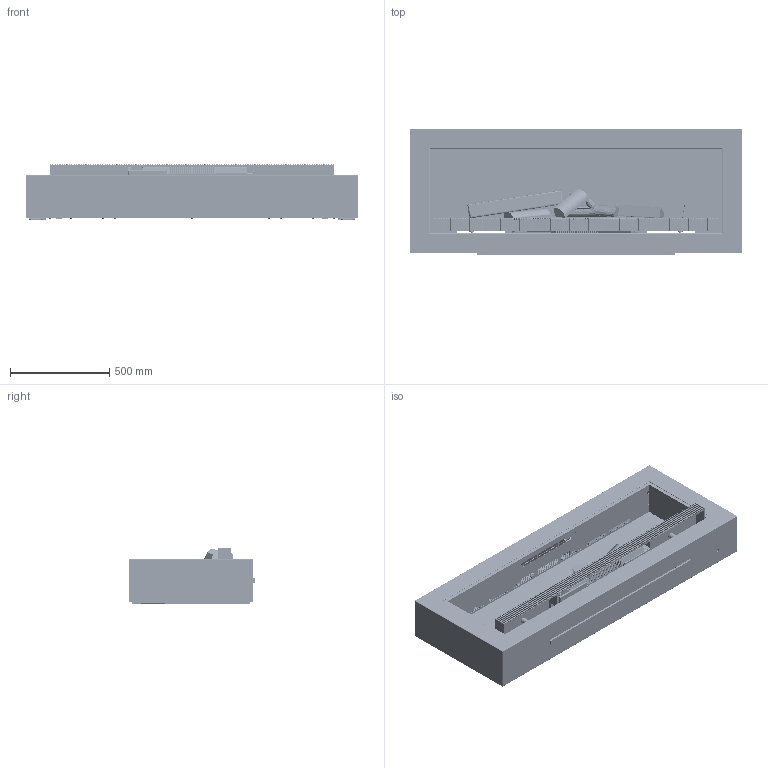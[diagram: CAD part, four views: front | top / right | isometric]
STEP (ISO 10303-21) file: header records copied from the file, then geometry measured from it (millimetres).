
FILE_DESCRIPTION (( 'STEP AP203' ), '1' );
FILE_NAME ('E Series E65 Design Frame with LED.STEP', '2024-03-12T12:49:04', ( '' ), ( '' ), 'SwSTEP 2.0', 'SolidWorks 2020', '' );
FILE_SCHEMA (( 'CONFIG_CONTROL_DESIGN' ));
Length unit declared in the file: millimetre
Products named in the file (93): KF06364; KF04020; KF06249; KF05924; KF05923; KF00592_Phoenix 3273266; KF06083_Built in version; KF06717_Left - Bend ; KF04060; KF06375; KF05861; KF05845; KF06239; KF06605; KF06124; KF06679; KF05910; KF05962_Hand set bends; KF06611; KF05961; KF05879; KF05901; KF06148_Built in ; KF04003; KF06684_Built in; KF05976; KF01931_Phoenix 3273274; KF06606; KF06368; KF06545; KF06609; KF06681; KF05846; KF06369; KF06370; KF05849; KF06460; KF05964; KF05977; E Series E65 Design Frame with LED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
Assembly tree (233 placements, depth 6):
  E Series E65 Design Frame with LED
    KF05881_Inschijner
      KF05976
      KF06112
        KF05883
        KF06109
      KF06113
        KF05884
        KF06109
      KF06679  x2
    KF05923
    KF05915  x2
    KF04164  x6
    KF06219
      KF06372
        KF05932
          KF05927
          KF04020  x5
          KF04060  x4
        KF05930  x2
          KF05924
          KF04020
        KF05910
          KF05901
          KF04079  x2
          KF04020  x3
        KF05909
          KF05900
          KF04079  x2
          KF04020  x3
        KF05934_Built in
          KF06148_Built in 
          KF04020  x2
          KF04060  x4
        KF05928
        KF05846  x2
          KF05847
          KF06057
          KF04020
          KF06545
        KF06370
          KF06369
          KF04020
        KF06368
          KF06364
          KF04020
        KF06124
        KF06125
        KF06460  x2
        KF06681
          KF06683_Built in
          KF06684_Built in
          KF06717_Left - Bend 
          KF06717_Right - Bend
      KF05972
        KF05844
          KF05845
          KF04895  x5
        KF05849
      KF05969_ISO 14579 M6 x 10 - 10N[Galvanized]  x2
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Bounding box: 1674 x 637 x 280.5 mm (x, y, z)
Volume: 53392622.2 mm3; surface area: 14132563.8 mm2
Topology: 228 solids, 277 shells, 18524 faces, 48075 edges, 30469 vertices
Faces by surface type: plane 12150, cylinder 4318, cone 1524, bspline 281, torus 189, sphere 62
Entity records: 440788 total; most frequent: CARTESIAN_POINT 108034, ORIENTED_EDGE 67488, DIRECTION 64169, EDGE_CURVE 33744, LINE 25667, VECTOR 25667, VERTEX_POINT 21383, AXIS2_PLACEMENT_3D 19251
